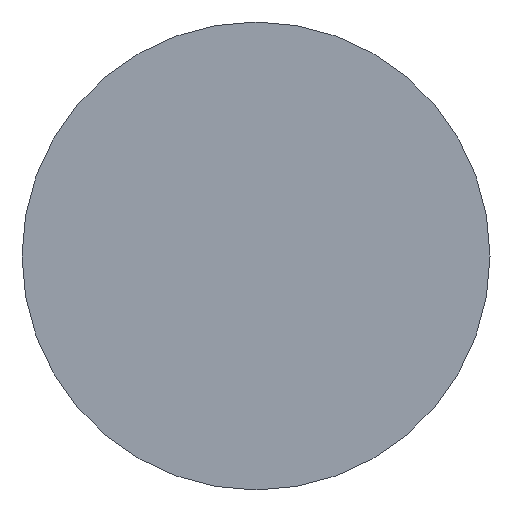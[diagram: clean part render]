
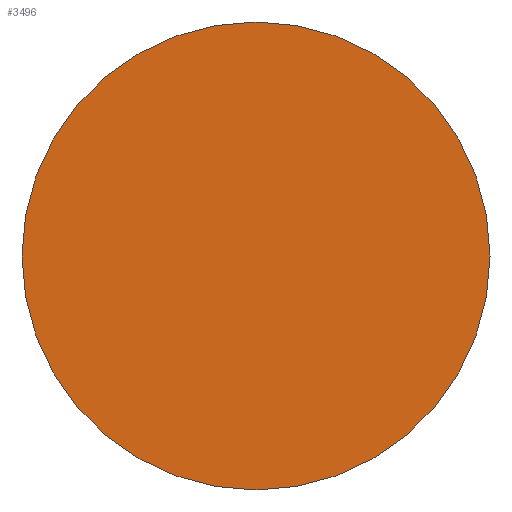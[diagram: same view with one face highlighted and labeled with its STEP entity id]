
A CAD part, front view. The second image highlights one B-rep face of the part: STEP entity #3496.
In plain terms, the highlighted planar face has unit normal (0, -1, 0).
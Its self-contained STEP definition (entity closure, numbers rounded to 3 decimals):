
#655 = EDGE_LOOP ( 'NONE', ( #3896, #1293 ) ) ;
#1293 = ORIENTED_EDGE ( 'NONE', *, *, #2624, .T. ) ;
#1328 = PLANE ( 'NONE',  #2089 ) ;
#1393 = CARTESIAN_POINT ( 'NONE',  ( 0., -30., 0. ) ) ;
#1535 = CIRCLE ( 'NONE', #3160, 41. ) ;
#1685 = CIRCLE ( 'NONE', #3579, 41. ) ;
#1697 = DIRECTION ( 'NONE',  ( 1., 0., 0. ) ) ;
#1966 = CARTESIAN_POINT ( 'NONE',  ( 41., -30., 0. ) ) ;
#2089 = AXIS2_PLACEMENT_3D ( 'NONE', #1966, #3309, #1697 ) ;
#2556 = DIRECTION ( 'NONE',  ( 1., 0., 0. ) ) ;
#2624 = EDGE_CURVE ( 'NONE', #2998, #3912, #1685, .T. ) ;
#2716 = DIRECTION ( 'NONE',  ( 0., -1., 0. ) ) ;
#2869 = CARTESIAN_POINT ( 'NONE',  ( -41., -30., 0. ) ) ;
#2874 = CARTESIAN_POINT ( 'NONE',  ( 0., -30., 0. ) ) ;
#2931 = CARTESIAN_POINT ( 'NONE',  ( 41., -30., 0. ) ) ;
#2975 = DIRECTION ( 'NONE',  ( 0., -1., 0. ) ) ;
#2998 = VERTEX_POINT ( 'NONE', #2869 ) ;
#3160 = AXIS2_PLACEMENT_3D ( 'NONE', #1393, #2716, #3705 ) ;
#3309 = DIRECTION ( 'NONE',  ( 0., -1., 0. ) ) ;
#3496 = ADVANCED_FACE ( 'NONE', ( #3950 ), #1328, .T. ) ;
#3579 = AXIS2_PLACEMENT_3D ( 'NONE', #2874, #2975, #2556 ) ;
#3705 = DIRECTION ( 'NONE',  ( 1., 0., 0. ) ) ;
#3709 = EDGE_CURVE ( 'NONE', #3912, #2998, #1535, .T. ) ;
#3896 = ORIENTED_EDGE ( 'NONE', *, *, #3709, .T. ) ;
#3912 = VERTEX_POINT ( 'NONE', #2931 ) ;
#3950 = FACE_OUTER_BOUND ( 'NONE', #655, .T. ) ;
